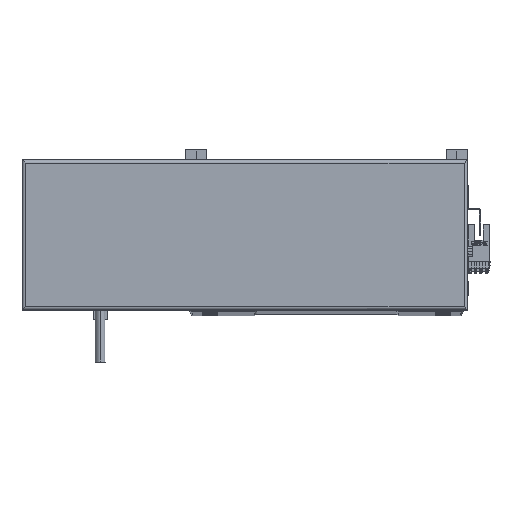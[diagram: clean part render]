
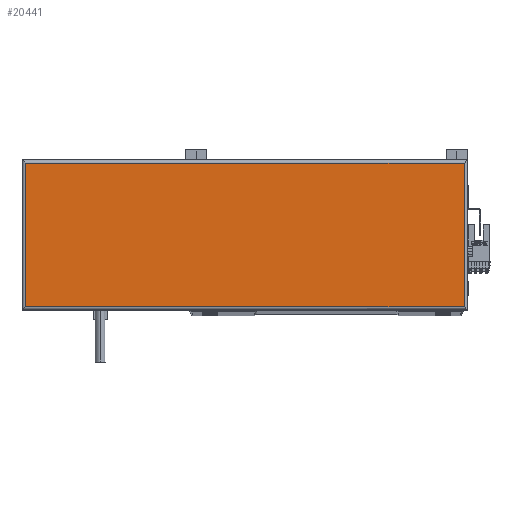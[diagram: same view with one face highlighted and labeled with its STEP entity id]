
A CAD part, top view. The second image highlights one B-rep face of the part: STEP entity #20441.
In plain terms, the highlighted planar face has unit normal (0, 0, 1).
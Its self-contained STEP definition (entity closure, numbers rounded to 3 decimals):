
#1380 = VECTOR ( 'NONE', #40506, 1000. ) ;
#1848 = CARTESIAN_POINT ( 'NONE',  ( 267., 2., 44.8 ) ) ;
#3891 = LINE ( 'NONE', #37814, #35652 ) ;
#3943 = ORIENTED_EDGE ( 'NONE', *, *, #22432, .T. ) ;
#4344 = CARTESIAN_POINT ( 'NONE',  ( 2., 2., 44.8 ) ) ;
#5985 = ORIENTED_EDGE ( 'NONE', *, *, #50229, .T. ) ;
#12126 = VECTOR ( 'NONE', #15131, 1000. ) ;
#13718 = EDGE_CURVE ( 'NONE', #36892, #34789, #24565, .T. ) ;
#14571 = DIRECTION ( 'NONE',  ( 0., 0., 1. ) ) ;
#14929 = CARTESIAN_POINT ( 'NONE',  ( 2., 88., 44.8 ) ) ;
#15076 = DIRECTION ( 'NONE',  ( 1., 0., 0. ) ) ;
#15131 = DIRECTION ( 'NONE',  ( -1., 0., 0. ) ) ;
#15654 = FACE_OUTER_BOUND ( 'NONE', #16741, .T. ) ;
#16741 = EDGE_LOOP ( 'NONE', ( #45885, #5985, #3943, #30434 ) ) ;
#18653 = CARTESIAN_POINT ( 'NONE',  ( 265., 2., 44.8 ) ) ;
#20441 = ADVANCED_FACE ( 'NONE', ( #15654 ), #26810, .T. ) ;
#22432 = EDGE_CURVE ( 'NONE', #33318, #36892, #3891, .T. ) ;
#22659 = DIRECTION ( 'NONE',  ( 0., 1., 0. ) ) ;
#23706 = LINE ( 'NONE', #34356, #12126 ) ;
#24565 = LINE ( 'NONE', #1848, #1380 ) ;
#25947 = DIRECTION ( 'NONE',  ( 0., -1., 0. ) ) ;
#26810 = PLANE ( 'NONE',  #37287 ) ;
#29575 = CARTESIAN_POINT ( 'NONE',  ( 265., 88., 44.8 ) ) ;
#30434 = ORIENTED_EDGE ( 'NONE', *, *, #13718, .T. ) ;
#33318 = VERTEX_POINT ( 'NONE', #14929 ) ;
#34356 = CARTESIAN_POINT ( 'NONE',  ( 0., 88., 44.8 ) ) ;
#34789 = VERTEX_POINT ( 'NONE', #18653 ) ;
#35652 = VECTOR ( 'NONE', #25947, 1000. ) ;
#35937 = LINE ( 'NONE', #46478, #45644 ) ;
#36892 = VERTEX_POINT ( 'NONE', #4344 ) ;
#37287 = AXIS2_PLACEMENT_3D ( 'NONE', #38525, #14571, #15076 ) ;
#37814 = CARTESIAN_POINT ( 'NONE',  ( 2., 0., 44.8 ) ) ;
#38525 = CARTESIAN_POINT ( 'NONE',  ( 133.5, 45., 44.8 ) ) ;
#40506 = DIRECTION ( 'NONE',  ( 1., 0., 0. ) ) ;
#44404 = VERTEX_POINT ( 'NONE', #29575 ) ;
#45644 = VECTOR ( 'NONE', #22659, 1000. ) ;
#45885 = ORIENTED_EDGE ( 'NONE', *, *, #49679, .T. ) ;
#46478 = CARTESIAN_POINT ( 'NONE',  ( 265., 90., 44.8 ) ) ;
#49679 = EDGE_CURVE ( 'NONE', #34789, #44404, #35937, .T. ) ;
#50229 = EDGE_CURVE ( 'NONE', #44404, #33318, #23706, .T. ) ;
